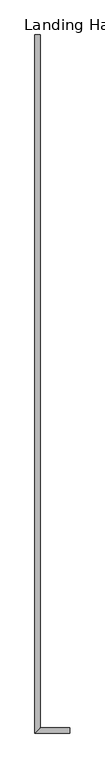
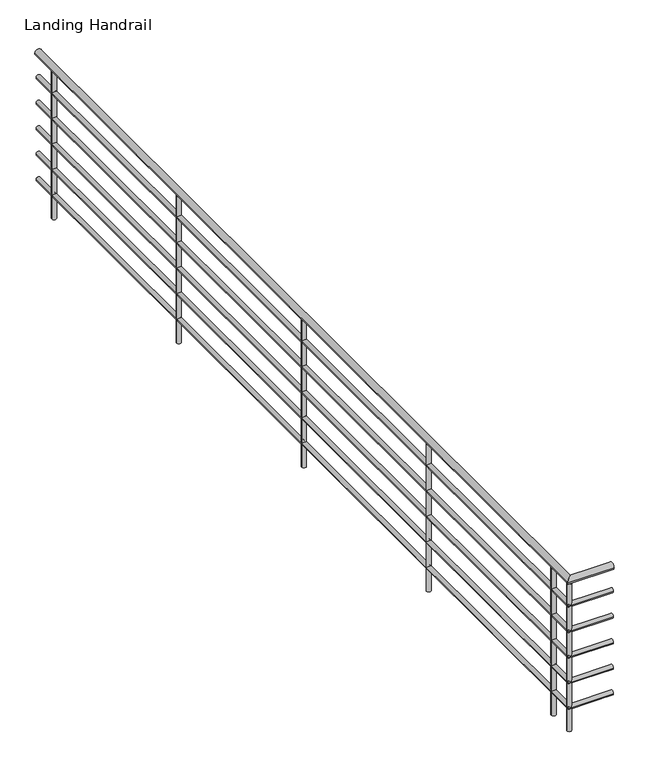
"""IFC4 building model written with IfcOpenShell, lengths in millimetres: railing geometry, Landing Handrail."""

from ifc_helpers import new_model, si_unit, point, frame, frame_2d, origin, place, context, project, spatial, circle_curve, ellipse_curve, trimmed, segment, composite_curve, outline, extrude, source, transform, mapped, element, save
from ifc_brep_helpers import plane_surface, cylinder_surface, advanced_brep


def landing_handrail_e6ea10c0(model_context):
    return source(origin(), model_context, "Body", "SolidModel", [
        advanced_brep(
        [(14838.912245, 12391.8737109, 20402.55), (14877.012245, 12391.8737109, 20402.55), (14877.012245, 7227.7362109, 20402.55), (14838.912245, 7189.6362109, 20402.55), (15099.262245, 7189.6362109, 20402.55), (15099.262245, 7227.7362109, 20402.55)],
        [
            (0, 1, circle_curve(frame((14857.962245, 12391.8737109, 20402.55), z_axis=(0.0, 1.0, 0.0), x_axis=(1.0, 0.0, 0.0)), 19.05)),
            (1, 0, circle_curve(frame((14857.962245, 12391.8737109, 20402.55), z_axis=(0.0, 1.0, 0.0), x_axis=(1.0, 0.0, 0.0)), 19.05)),
            (1, 2),
            (2, 3, ellipse_curve(frame((14857.962245, 7208.6862109, 20402.55), z_axis=(-0.7071067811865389, 0.7071067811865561, 0.0), x_axis=(0.7071067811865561, 0.7071067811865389, 0.0)), 26.9407684, 19.05)),
            (3, 0),
            (3, 2, ellipse_curve(frame((14857.962245, 7208.6862109, 20402.55), z_axis=(-0.7071067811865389, 0.7071067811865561, 0.0), x_axis=(0.7071067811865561, 0.7071067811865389, 0.0)), 26.9407684, 19.05)),
            (4, 5, circle_curve(frame((15099.262245, 7208.6862109, 20402.55), z_axis=(1.0, 0.0, 0.0), x_axis=(0.0, 1.0, 0.0)), 19.05)),
            (5, 4, circle_curve(frame((15099.262245, 7208.6862109, 20402.55), z_axis=(1.0, 0.0, 0.0), x_axis=(0.0, 1.0, 0.0)), 19.05)),
            (3, 4),
            (5, 2),
        ],
        [
            plane_surface(frame((14857.962245, 12391.8737109, 20421.6), z_axis=(0.0, 1.0, 0.0), x_axis=(0.0, 0.0, -1.0))),
            cylinder_surface(frame((14857.962245, 12391.8737109, 20402.55), z_axis=(0.0, 1.0, 0.0), x_axis=(1.0, 0.0, 0.0)), 19.05),
            plane_surface(frame((15099.262245, 7208.6862109, 20421.6), z_axis=(1.0, 0.0, 0.0), x_axis=(0.0, 1.0, 0.0))),
            cylinder_surface(frame((14857.962245, 7208.6862109, 20402.55), z_axis=(-1.0, 0.0, 0.0), x_axis=(0.0, 1.0, 0.0)), 19.05),
        ],
        [
            (0, [[1, 2]]),
            (1, [[-2, 3, 4, 5]]),
            (1, [[-1, -5, 6, -3]]),
            (2, [[7, 8]]),
            (3, [[-6, 9, -8, 10]]),
            (3, [[-4, -10, -7, -9]]),
        ],
    ),
        advanced_brep(
        [(14845.262245, 12391.8737109, 20256.5), (14870.662245, 12391.8737109, 20256.5), (14870.662245, 7221.3862109, 20256.5), (14845.262245, 7195.9862109, 20256.5), (15099.262245, 7195.9862109, 20256.5), (15099.262245, 7221.3862109, 20256.5)],
        [
            (0, 1, circle_curve(frame((14857.962245, 12391.8737109, 20256.5), z_axis=(0.0, 1.0, 0.0), x_axis=(1.0, 0.0, 0.0)), 12.7)),
            (1, 0, circle_curve(frame((14857.962245, 12391.8737109, 20256.5), z_axis=(0.0, 1.0, 0.0), x_axis=(1.0, 0.0, 0.0)), 12.7)),
            (1, 2),
            (2, 3, ellipse_curve(frame((14857.962245, 7208.6862109, 20256.5), z_axis=(-0.7071067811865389, 0.7071067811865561, 0.0), x_axis=(0.7071067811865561, 0.7071067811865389, 0.0)), 17.9605122, 12.7)),
            (3, 0),
            (3, 2, ellipse_curve(frame((14857.962245, 7208.6862109, 20256.5), z_axis=(-0.7071067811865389, 0.7071067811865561, 0.0), x_axis=(0.7071067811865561, 0.7071067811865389, 0.0)), 17.9605122, 12.7)),
            (4, 5, circle_curve(frame((15099.262245, 7208.6862109, 20256.5), z_axis=(1.0, 0.0, 0.0), x_axis=(0.0, 1.0, 0.0)), 12.7)),
            (5, 4, circle_curve(frame((15099.262245, 7208.6862109, 20256.5), z_axis=(1.0, 0.0, 0.0), x_axis=(0.0, 1.0, 0.0)), 12.7)),
            (3, 4),
            (5, 2),
        ],
        [
            plane_surface(frame((14857.962245, 12391.8737109, 20269.2), z_axis=(0.0, 1.0, 0.0), x_axis=(0.0, 0.0, -1.0))),
            cylinder_surface(frame((14857.962245, 12391.8737109, 20256.5), z_axis=(0.0, 1.0, 0.0), x_axis=(1.0, 0.0, 0.0)), 12.7),
            plane_surface(frame((15099.262245, 7208.6862109, 20269.2), z_axis=(1.0, 0.0, 0.0), x_axis=(0.0, 1.0, 0.0))),
            cylinder_surface(frame((14857.962245, 7208.6862109, 20256.5), z_axis=(-1.0, 0.0, 0.0), x_axis=(0.0, 1.0, 0.0)), 12.7),
        ],
        [
            (0, [[1, 2]]),
            (1, [[-2, 3, 4, 5]]),
            (1, [[-1, -5, 6, -3]]),
            (2, [[7, 8]]),
            (3, [[-6, 9, -8, 10]]),
            (3, [[-4, -10, -7, -9]]),
        ],
    ),
        advanced_brep(
        [(14845.262245, 12391.8737109, 20104.1), (14870.662245, 12391.8737109, 20104.1), (14870.662245, 7221.3862109, 20104.1), (14845.262245, 7195.9862109, 20104.1), (15099.262245, 7195.9862109, 20104.1), (15099.262245, 7221.3862109, 20104.1)],
        [
            (0, 1, circle_curve(frame((14857.962245, 12391.8737109, 20104.1), z_axis=(0.0, 1.0, 0.0), x_axis=(1.0, 0.0, 0.0)), 12.7)),
            (1, 0, circle_curve(frame((14857.962245, 12391.8737109, 20104.1), z_axis=(0.0, 1.0, 0.0), x_axis=(1.0, 0.0, 0.0)), 12.7)),
            (1, 2),
            (2, 3, ellipse_curve(frame((14857.962245, 7208.6862109, 20104.1), z_axis=(-0.7071067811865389, 0.7071067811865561, 0.0), x_axis=(0.7071067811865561, 0.7071067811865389, 0.0)), 17.9605122, 12.7)),
            (3, 0),
            (3, 2, ellipse_curve(frame((14857.962245, 7208.6862109, 20104.1), z_axis=(-0.7071067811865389, 0.7071067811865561, 0.0), x_axis=(0.7071067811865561, 0.7071067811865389, 0.0)), 17.9605122, 12.7)),
            (4, 5, circle_curve(frame((15099.262245, 7208.6862109, 20104.1), z_axis=(1.0, 0.0, 0.0), x_axis=(0.0, 1.0, 0.0)), 12.7)),
            (5, 4, circle_curve(frame((15099.262245, 7208.6862109, 20104.1), z_axis=(1.0, 0.0, 0.0), x_axis=(0.0, 1.0, 0.0)), 12.7)),
            (3, 4),
            (5, 2),
        ],
        [
            plane_surface(frame((14857.962245, 12391.8737109, 20116.8), z_axis=(0.0, 1.0, 0.0), x_axis=(0.0, 0.0, -1.0))),
            cylinder_surface(frame((14857.962245, 12391.8737109, 20104.1), z_axis=(0.0, 1.0, 0.0), x_axis=(1.0, 0.0, 0.0)), 12.7),
            plane_surface(frame((15099.262245, 7208.6862109, 20116.8), z_axis=(1.0, 0.0, 0.0), x_axis=(0.0, 1.0, 0.0))),
            cylinder_surface(frame((14857.962245, 7208.6862109, 20104.1), z_axis=(-1.0, 0.0, 0.0), x_axis=(0.0, 1.0, 0.0)), 12.7),
        ],
        [
            (0, [[1, 2]]),
            (1, [[-2, 3, 4, 5]]),
            (1, [[-1, -5, 6, -3]]),
            (2, [[7, 8]]),
            (3, [[-6, 9, -8, 10]]),
            (3, [[-4, -10, -7, -9]]),
        ],
    ),
        advanced_brep(
        [(14845.262245, 12391.8737109, 19951.7), (14870.662245, 12391.8737109, 19951.7), (14870.662245, 7221.3862109, 19951.7), (14845.262245, 7195.9862109, 19951.7), (15099.262245, 7195.9862109, 19951.7), (15099.262245, 7221.3862109, 19951.7)],
        [
            (0, 1, circle_curve(frame((14857.962245, 12391.8737109, 19951.7), z_axis=(0.0, 1.0, 0.0), x_axis=(1.0, 0.0, 0.0)), 12.7)),
            (1, 0, circle_curve(frame((14857.962245, 12391.8737109, 19951.7), z_axis=(0.0, 1.0, 0.0), x_axis=(1.0, 0.0, 0.0)), 12.7)),
            (1, 2),
            (2, 3, ellipse_curve(frame((14857.962245, 7208.6862109, 19951.7), z_axis=(-0.7071067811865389, 0.7071067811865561, 0.0), x_axis=(0.7071067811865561, 0.7071067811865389, 0.0)), 17.9605122, 12.7)),
            (3, 0),
            (3, 2, ellipse_curve(frame((14857.962245, 7208.6862109, 19951.7), z_axis=(-0.7071067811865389, 0.7071067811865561, 0.0), x_axis=(0.7071067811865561, 0.7071067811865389, 0.0)), 17.9605122, 12.7)),
            (4, 5, circle_curve(frame((15099.262245, 7208.6862109, 19951.7), z_axis=(1.0, 0.0, 0.0), x_axis=(0.0, 1.0, 0.0)), 12.7)),
            (5, 4, circle_curve(frame((15099.262245, 7208.6862109, 19951.7), z_axis=(1.0, 0.0, 0.0), x_axis=(0.0, 1.0, 0.0)), 12.7)),
            (3, 4),
            (5, 2),
        ],
        [
            plane_surface(frame((14857.962245, 12391.8737109, 19964.4), z_axis=(0.0, 1.0, 0.0), x_axis=(0.0, 0.0, -1.0))),
            cylinder_surface(frame((14857.962245, 12391.8737109, 19951.7), z_axis=(0.0, 1.0, 0.0), x_axis=(1.0, 0.0, 0.0)), 12.7),
            plane_surface(frame((15099.262245, 7208.6862109, 19964.4), z_axis=(1.0, 0.0, 0.0), x_axis=(0.0, 1.0, 0.0))),
            cylinder_surface(frame((14857.962245, 7208.6862109, 19951.7), z_axis=(-1.0, 0.0, 0.0), x_axis=(0.0, 1.0, 0.0)), 12.7),
        ],
        [
            (0, [[1, 2]]),
            (1, [[-2, 3, 4, 5]]),
            (1, [[-1, -5, 6, -3]]),
            (2, [[7, 8]]),
            (3, [[-6, 9, -8, 10]]),
            (3, [[-4, -10, -7, -9]]),
        ],
    ),
        advanced_brep(
        [(14845.262245, 12391.8737109, 19799.3), (14870.662245, 12391.8737109, 19799.3), (14870.662245, 7221.3862109, 19799.3), (14845.262245, 7195.9862109, 19799.3), (15099.262245, 7195.9862109, 19799.3), (15099.262245, 7221.3862109, 19799.3)],
        [
            (0, 1, circle_curve(frame((14857.962245, 12391.8737109, 19799.3), z_axis=(0.0, 1.0, 0.0), x_axis=(1.0, 0.0, 0.0)), 12.7)),
            (1, 0, circle_curve(frame((14857.962245, 12391.8737109, 19799.3), z_axis=(0.0, 1.0, 0.0), x_axis=(1.0, 0.0, 0.0)), 12.7)),
            (1, 2),
            (2, 3, ellipse_curve(frame((14857.962245, 7208.6862109, 19799.3), z_axis=(-0.7071067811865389, 0.7071067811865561, 0.0), x_axis=(0.7071067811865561, 0.7071067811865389, 0.0)), 17.9605122, 12.7)),
            (3, 0),
            (3, 2, ellipse_curve(frame((14857.962245, 7208.6862109, 19799.3), z_axis=(-0.7071067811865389, 0.7071067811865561, 0.0), x_axis=(0.7071067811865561, 0.7071067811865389, 0.0)), 17.9605122, 12.7)),
            (4, 5, circle_curve(frame((15099.262245, 7208.6862109, 19799.3), z_axis=(1.0, 0.0, 0.0), x_axis=(0.0, 1.0, 0.0)), 12.7)),
            (5, 4, circle_curve(frame((15099.262245, 7208.6862109, 19799.3), z_axis=(1.0, 0.0, 0.0), x_axis=(0.0, 1.0, 0.0)), 12.7)),
            (3, 4),
            (5, 2),
        ],
        [
            plane_surface(frame((14857.962245, 12391.8737109, 19812.0), z_axis=(0.0, 1.0, 0.0), x_axis=(0.0, 0.0, -1.0))),
            cylinder_surface(frame((14857.962245, 12391.8737109, 19799.3), z_axis=(0.0, 1.0, 0.0), x_axis=(1.0, 0.0, 0.0)), 12.7),
            plane_surface(frame((15099.262245, 7208.6862109, 19812.0), z_axis=(1.0, 0.0, 0.0), x_axis=(0.0, 1.0, 0.0))),
            cylinder_surface(frame((14857.962245, 7208.6862109, 19799.3), z_axis=(-1.0, 0.0, 0.0), x_axis=(0.0, 1.0, 0.0)), 12.7),
        ],
        [
            (0, [[1, 2]]),
            (1, [[-2, 3, 4, 5]]),
            (1, [[-1, -5, 6, -3]]),
            (2, [[7, 8]]),
            (3, [[-6, 9, -8, 10]]),
            (3, [[-4, -10, -7, -9]]),
        ],
    ),
        advanced_brep(
        [(14845.262245, 12391.8737109, 19646.9), (14870.662245, 12391.8737109, 19646.9), (14870.662245, 7221.3862109, 19646.9), (14845.262245, 7195.9862109, 19646.9), (15099.262245, 7195.9862109, 19646.9), (15099.262245, 7221.3862109, 19646.9)],
        [
            (0, 1, circle_curve(frame((14857.962245, 12391.8737109, 19646.9), z_axis=(0.0, 1.0, 0.0), x_axis=(1.0, 0.0, 0.0)), 12.7)),
            (1, 0, circle_curve(frame((14857.962245, 12391.8737109, 19646.9), z_axis=(0.0, 1.0, 0.0), x_axis=(1.0, 0.0, 0.0)), 12.7)),
            (1, 2),
            (2, 3, ellipse_curve(frame((14857.962245, 7208.6862109, 19646.9), z_axis=(-0.7071067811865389, 0.7071067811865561, 0.0), x_axis=(0.7071067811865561, 0.7071067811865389, 0.0)), 17.9605122, 12.7)),
            (3, 0),
            (3, 2, ellipse_curve(frame((14857.962245, 7208.6862109, 19646.9), z_axis=(-0.7071067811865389, 0.7071067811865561, 0.0), x_axis=(0.7071067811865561, 0.7071067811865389, 0.0)), 17.9605122, 12.7)),
            (4, 5, circle_curve(frame((15099.262245, 7208.6862109, 19646.9), z_axis=(1.0, 0.0, 0.0), x_axis=(0.0, 1.0, 0.0)), 12.7)),
            (5, 4, circle_curve(frame((15099.262245, 7208.6862109, 19646.9), z_axis=(1.0, 0.0, 0.0), x_axis=(0.0, 1.0, 0.0)), 12.7)),
            (3, 4),
            (5, 2),
        ],
        [
            plane_surface(frame((14857.962245, 12391.8737109, 19659.6), z_axis=(0.0, 1.0, 0.0), x_axis=(0.0, 0.0, -1.0))),
            cylinder_surface(frame((14857.962245, 12391.8737109, 19646.9), z_axis=(0.0, 1.0, 0.0), x_axis=(1.0, 0.0, 0.0)), 12.7),
            plane_surface(frame((15099.262245, 7208.6862109, 19659.6), z_axis=(1.0, 0.0, 0.0), x_axis=(0.0, 1.0, 0.0))),
            cylinder_surface(frame((14857.962245, 7208.6862109, 19646.9), z_axis=(-1.0, 0.0, 0.0), x_axis=(0.0, 1.0, 0.0)), 12.7),
        ],
        [
            (0, [[1, 2]]),
            (1, [[-2, 3, 4, 5]]),
            (1, [[-1, -5, 6, -3]]),
            (2, [[7, 8]]),
            (3, [[-6, 9, -8, 10]]),
            (3, [[-4, -10, -7, -9]]),
        ],
    ),
        extrude(outline(composite_curve([segment(trimmed(circle_curve(frame_2d((14857.962245, 7361.8799609)), 12.7), [point((14845.262245, 7361.8799609))], [point((14870.662245, 7361.8799609))], False, "CARTESIAN"), True, "CONTINUOUS"), segment(trimmed(circle_curve(frame_2d((14857.962245, 7361.8799609)), 12.7), [point((14870.662245, 7361.8799609))], [point((14845.262245, 7361.8799609))], False, "CARTESIAN"), True, "CONTINUOUS")], self_intersect=False)), frame((0.0, 0.0, 19507.2), z_axis=(0.0, 0.0, 1.0), x_axis=(1.0, 0.0, 0.0)), (0.0, 0.0, 1.0), 876.3),
        extrude(outline(composite_curve([segment(trimmed(circle_curve(frame_2d((14857.962245, 8581.0799609)), 12.7), [point((14845.262245, 8581.0799609))], [point((14870.662245, 8581.0799609))], False, "CARTESIAN"), True, "CONTINUOUS"), segment(trimmed(circle_curve(frame_2d((14857.962245, 8581.0799609)), 12.7), [point((14870.662245, 8581.0799609))], [point((14845.262245, 8581.0799609))], False, "CARTESIAN"), True, "CONTINUOUS")], self_intersect=False)), frame((0.0, 0.0, 19507.2), z_axis=(0.0, 0.0, 1.0), x_axis=(1.0, 0.0, 0.0)), (0.0, 0.0, 1.0), 876.3),
        extrude(outline(composite_curve([segment(trimmed(circle_curve(frame_2d((14857.962245, 9800.2799609)), 12.7), [point((14845.262245, 9800.2799609))], [point((14870.662245, 9800.2799609))], False, "CARTESIAN"), True, "CONTINUOUS"), segment(trimmed(circle_curve(frame_2d((14857.962245, 9800.2799609)), 12.7), [point((14870.662245, 9800.2799609))], [point((14845.262245, 9800.2799609))], False, "CARTESIAN"), True, "CONTINUOUS")], self_intersect=False)), frame((0.0, 0.0, 19507.2), z_axis=(0.0, 0.0, 1.0), x_axis=(1.0, 0.0, 0.0)), (0.0, 0.0, 1.0), 876.3),
        extrude(outline(composite_curve([segment(trimmed(circle_curve(frame_2d((14857.962245, 11019.4799609)), 12.7), [point((14845.262245, 11019.4799609))], [point((14870.662245, 11019.4799609))], False, "CARTESIAN"), True, "CONTINUOUS"), segment(trimmed(circle_curve(frame_2d((14857.962245, 11019.4799609)), 12.7), [point((14870.662245, 11019.4799609))], [point((14845.262245, 11019.4799609))], False, "CARTESIAN"), True, "CONTINUOUS")], self_intersect=False)), frame((0.0, 0.0, 19507.2), z_axis=(0.0, 0.0, 1.0), x_axis=(1.0, 0.0, 0.0)), (0.0, 0.0, 1.0), 876.3),
        extrude(outline(composite_curve([segment(trimmed(circle_curve(frame_2d((14857.962245, 12238.6799609)), 12.7), [point((14845.262245, 12238.6799609))], [point((14870.662245, 12238.6799609))], False, "CARTESIAN"), True, "CONTINUOUS"), segment(trimmed(circle_curve(frame_2d((14857.962245, 12238.6799609)), 12.7), [point((14870.662245, 12238.6799609))], [point((14845.262245, 12238.6799609))], False, "CARTESIAN"), True, "CONTINUOUS")], self_intersect=False)), frame((0.0, 0.0, 19507.2), z_axis=(0.0, 0.0, 1.0), x_axis=(1.0, 0.0, 0.0)), (0.0, 0.0, 1.0), 876.3),
        extrude(outline(composite_curve([segment(trimmed(circle_curve(frame_2d((14857.962245, 7208.6862109)), 12.7), [point((14845.262245, 7208.6862109))], [point((14870.662245, 7208.6862109))], False, "CARTESIAN"), True, "CONTINUOUS"), segment(trimmed(circle_curve(frame_2d((14857.962245, 7208.6862109)), 12.7), [point((14870.662245, 7208.6862109))], [point((14845.262245, 7208.6862109))], False, "CARTESIAN"), True, "CONTINUOUS")], self_intersect=False)), frame((0.0, 0.0, 19507.2), z_axis=(0.0, 0.0, 1.0), x_axis=(1.0, 0.0, 0.0)), (0.0, 0.0, 1.0), 876.3),
    ])


if __name__ == "__main__":
    model = new_model("IFC4")
    model_context = context("Model", 3, world=origin())
    ifc_project = project(units=[si_unit("LENGTHUNIT", "METRE", prefix="MILLI")], contexts=[model_context])
    site = spatial("IfcSite", under=ifc_project)
    building = spatial("IfcBuilding", under=site)
    placement = place(None, origin())
    landing_handrail_shape = landing_handrail_e6ea10c0(model_context)
    element("IfcRailing", 1, ObjectType="Landing Handrail", at=placement, inside=building, context=model_context, shape_type="MappedRepresentation", body=[
        mapped(landing_handrail_shape, transform((0.0, 0.0, 0.0), x_axis=(1.0, 0.0, 0.0), y_axis=(0.0, 1.0, 0.0), z_axis=(0.0, 0.0, 1.0))),
    ])
    save(model, "model.ifc")
